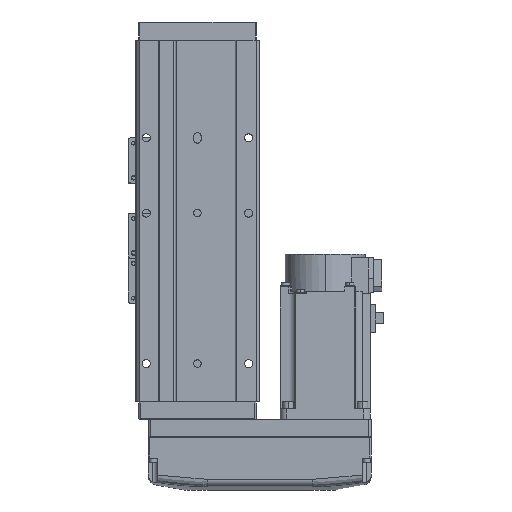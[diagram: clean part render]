
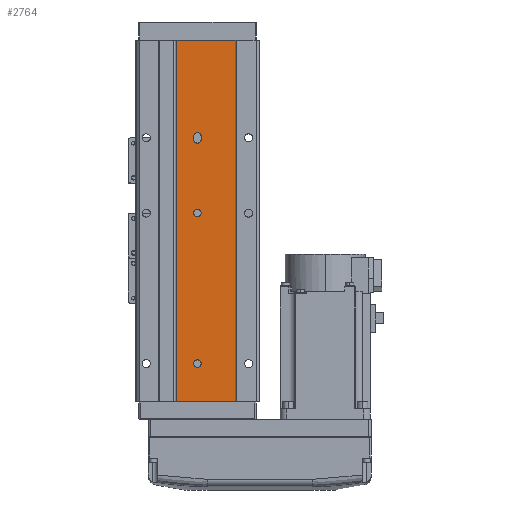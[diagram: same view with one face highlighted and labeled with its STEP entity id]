
A CAD part, front view. The second image highlights one B-rep face of the part: STEP entity #2764.
In plain terms, the highlighted planar face has unit normal (0, -1, 0).
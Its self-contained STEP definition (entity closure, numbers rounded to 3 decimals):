
#387 = DIRECTION ( 'NONE',  ( 0., -1., 0. ) ) ;
#412 = EDGE_CURVE ( 'NONE', #15976, #12250, #13494, .T. ) ;
#675 = VECTOR ( 'NONE', #17467, 1000. ) ;
#1146 = ORIENTED_EDGE ( 'NONE', *, *, #16448, .T. ) ;
#2031 = FACE_BOUND ( 'NONE', #31570, .T. ) ;
#2180 = ORIENTED_EDGE ( 'NONE', *, *, #17216, .T. ) ;
#2196 = DIRECTION ( 'NONE',  ( 0., -1., 0. ) ) ;
#2301 = EDGE_LOOP ( 'NONE', ( #32993, #24653 ) ) ;
#2378 = CARTESIAN_POINT ( 'NONE',  ( 0., 1., -5. ) ) ;
#2559 = CARTESIAN_POINT ( 'NONE',  ( 0., 1., -54. ) ) ;
#2764 = ADVANCED_FACE ( 'NONE', ( #17480, #29915, #2031, #14433 ), #26867, .F. ) ;
#2923 = CARTESIAN_POINT ( 'NONE',  ( -25., 1., -120. ) ) ;
#3445 = CARTESIAN_POINT ( 'NONE',  ( -25., 1., -120. ) ) ;
#4608 = AXIS2_PLACEMENT_3D ( 'NONE', #2378, #14777, #27220 ) ;
#4675 = ORIENTED_EDGE ( 'NONE', *, *, #35624, .F. ) ;
#5047 = CARTESIAN_POINT ( 'NONE',  ( 2.5, 1., -54. ) ) ;
#5048 = CARTESIAN_POINT ( 'NONE',  ( -25., 1., 120. ) ) ;
#6197 = CIRCLE ( 'NONE', #28956, 2.5 ) ;
#6419 = CARTESIAN_POINT ( 'NONE',  ( 0., 1., 95. ) ) ;
#6629 = DIRECTION ( 'NONE',  ( 0., 0., -1. ) ) ;
#6721 = LINE ( 'NONE', #19145, #24054 ) ;
#7111 = VECTOR ( 'NONE', #15316, 1000. ) ;
#7133 = LINE ( 'NONE', #19556, #34468 ) ;
#7353 = ORIENTED_EDGE ( 'NONE', *, *, #40083, .F. ) ;
#7454 = CARTESIAN_POINT ( 'NONE',  ( 14., 1., -120. ) ) ;
#7984 = DIRECTION ( 'NONE',  ( 0., 0., -1. ) ) ;
#9242 = VERTEX_POINT ( 'NONE', #18678 ) ;
#9789 = VERTEX_POINT ( 'NONE', #37780 ) ;
#10251 = EDGE_CURVE ( 'NONE', #32278, #23622, #32951, .T. ) ;
#10399 = AXIS2_PLACEMENT_3D ( 'NONE', #28281, #387, #12791 ) ;
#11344 = VERTEX_POINT ( 'NONE', #19631 ) ;
#11385 = DIRECTION ( 'NONE',  ( 0., 1., 0. ) ) ;
#11861 = ORIENTED_EDGE ( 'NONE', *, *, #30655, .F. ) ;
#12250 = VERTEX_POINT ( 'NONE', #22789 ) ;
#12669 = VECTOR ( 'NONE', #17466, 1000. ) ;
#12791 = DIRECTION ( 'NONE',  ( 0., 0., -1. ) ) ;
#13427 = ORIENTED_EDGE ( 'NONE', *, *, #10251, .F. ) ;
#13494 = CIRCLE ( 'NONE', #36250, 2.5 ) ;
#13918 = CARTESIAN_POINT ( 'NONE',  ( 0., 1., -5. ) ) ;
#14300 = EDGE_CURVE ( 'NONE', #23622, #20865, #6197, .T. ) ;
#14433 = FACE_OUTER_BOUND ( 'NONE', #38828, .T. ) ;
#14597 = DIRECTION ( 'NONE',  ( 0., 0., -1. ) ) ;
#14777 = DIRECTION ( 'NONE',  ( 0., -1., 0. ) ) ;
#14904 = AXIS2_PLACEMENT_3D ( 'NONE', #23464, #35884, #7984 ) ;
#14961 = DIRECTION ( 'NONE',  ( 0., -1., 0. ) ) ;
#15156 = VERTEX_POINT ( 'NONE', #36810 ) ;
#15316 = DIRECTION ( 'NONE',  ( 1., 0., 0. ) ) ;
#15976 = VERTEX_POINT ( 'NONE', #21496 ) ;
#16448 = EDGE_CURVE ( 'NONE', #27321, #37399, #30807, .T. ) ;
#16476 = EDGE_LOOP ( 'NONE', ( #31932, #24463, #13427, #36025, #4675 ) ) ;
#16725 = VERTEX_POINT ( 'NONE', #38917 ) ;
#17028 = EDGE_CURVE ( 'NONE', #20865, #9242, #6721, .T. ) ;
#17216 = EDGE_CURVE ( 'NONE', #26488, #27321, #32952, .T. ) ;
#17466 = DIRECTION ( 'NONE',  ( 0., 0., 1. ) ) ;
#17467 = DIRECTION ( 'NONE',  ( 0., 0., -1. ) ) ;
#17480 = FACE_BOUND ( 'NONE', #16476, .T. ) ;
#18678 = CARTESIAN_POINT ( 'NONE',  ( -2.5, 1., -56. ) ) ;
#18849 = DIRECTION ( 'NONE',  ( 0., -1., 0. ) ) ;
#19145 = CARTESIAN_POINT ( 'NONE',  ( -2.5, 1., -54. ) ) ;
#19556 = CARTESIAN_POINT ( 'NONE',  ( -25., 1., 120. ) ) ;
#19631 = CARTESIAN_POINT ( 'NONE',  ( 14., 1., 120. ) ) ;
#20565 = AXIS2_PLACEMENT_3D ( 'NONE', #30088, #2196, #14597 ) ;
#20739 = AXIS2_PLACEMENT_3D ( 'NONE', #13918, #26349, #38751 ) ;
#20865 = VERTEX_POINT ( 'NONE', #35922 ) ;
#21496 = CARTESIAN_POINT ( 'NONE',  ( 0., 1., 97.5 ) ) ;
#22013 = CARTESIAN_POINT ( 'NONE',  ( 2.5, 1., -56. ) ) ;
#22104 = LINE ( 'NONE', #34522, #33973 ) ;
#22482 = EDGE_CURVE ( 'NONE', #12250, #15976, #32480, .T. ) ;
#22789 = CARTESIAN_POINT ( 'NONE',  ( 0., 1., 92.5 ) ) ;
#22852 = EDGE_CURVE ( 'NONE', #26488, #11344, #7133, .T. ) ;
#23340 = EDGE_CURVE ( 'NONE', #11344, #37399, #22104, .T. ) ;
#23464 = CARTESIAN_POINT ( 'NONE',  ( 0., 1., 95. ) ) ;
#23622 = VERTEX_POINT ( 'NONE', #24448 ) ;
#23801 = DIRECTION ( 'NONE',  ( 0., 0., 1. ) ) ;
#24054 = VECTOR ( 'NONE', #31558, 1000. ) ;
#24448 = CARTESIAN_POINT ( 'NONE',  ( 2.5, 1., -54. ) ) ;
#24463 = ORIENTED_EDGE ( 'NONE', *, *, #14300, .F. ) ;
#24653 = ORIENTED_EDGE ( 'NONE', *, *, #412, .F. ) ;
#25103 = ORIENTED_EDGE ( 'NONE', *, *, #23340, .F. ) ;
#25914 = CARTESIAN_POINT ( 'NONE',  ( -25., 1., 120. ) ) ;
#26349 = DIRECTION ( 'NONE',  ( 0., -1., 0. ) ) ;
#26488 = VERTEX_POINT ( 'NONE', #25914 ) ;
#26867 = PLANE ( 'NONE',  #30599 ) ;
#27220 = DIRECTION ( 'NONE',  ( 0., 0., -1. ) ) ;
#27321 = VERTEX_POINT ( 'NONE', #3445 ) ;
#27399 = DIRECTION ( 'NONE',  ( 0., 0., -1. ) ) ;
#27960 = CIRCLE ( 'NONE', #10399, 2.5 ) ;
#28188 = EDGE_CURVE ( 'NONE', #15156, #32278, #27960, .T. ) ;
#28281 = CARTESIAN_POINT ( 'NONE',  ( 0., 1., -56. ) ) ;
#28956 = AXIS2_PLACEMENT_3D ( 'NONE', #2559, #14961, #27399 ) ;
#29915 = FACE_BOUND ( 'NONE', #2301, .T. ) ;
#30088 = CARTESIAN_POINT ( 'NONE',  ( 0., 1., -56. ) ) ;
#30599 = AXIS2_PLACEMENT_3D ( 'NONE', #39281, #11385, #23801 ) ;
#30655 = EDGE_CURVE ( 'NONE', #9789, #16725, #38309, .T. ) ;
#30807 = LINE ( 'NONE', #2923, #7111 ) ;
#31270 = DIRECTION ( 'NONE',  ( 0., 0., -1. ) ) ;
#31558 = DIRECTION ( 'NONE',  ( 0., 0., -1. ) ) ;
#31570 = EDGE_LOOP ( 'NONE', ( #7353, #11861 ) ) ;
#31932 = ORIENTED_EDGE ( 'NONE', *, *, #17028, .F. ) ;
#31974 = DIRECTION ( 'NONE',  ( 1., 0., 0. ) ) ;
#32278 = VERTEX_POINT ( 'NONE', #22013 ) ;
#32480 = CIRCLE ( 'NONE', #14904, 2.5 ) ;
#32951 = LINE ( 'NONE', #5047, #12669 ) ;
#32952 = LINE ( 'NONE', #5048, #675 ) ;
#32993 = ORIENTED_EDGE ( 'NONE', *, *, #22482, .F. ) ;
#33973 = VECTOR ( 'NONE', #6629, 1000. ) ;
#34468 = VECTOR ( 'NONE', #31974, 1000. ) ;
#34522 = CARTESIAN_POINT ( 'NONE',  ( 14., 1., 120. ) ) ;
#35624 = EDGE_CURVE ( 'NONE', #9242, #15156, #38130, .T. ) ;
#35884 = DIRECTION ( 'NONE',  ( 0., -1., 0. ) ) ;
#35922 = CARTESIAN_POINT ( 'NONE',  ( -2.5, 1., -54. ) ) ;
#36025 = ORIENTED_EDGE ( 'NONE', *, *, #28188, .F. ) ;
#36250 = AXIS2_PLACEMENT_3D ( 'NONE', #6419, #18849, #31270 ) ;
#36810 = CARTESIAN_POINT ( 'NONE',  ( 0., 1., -58.5 ) ) ;
#37399 = VERTEX_POINT ( 'NONE', #7454 ) ;
#37780 = CARTESIAN_POINT ( 'NONE',  ( 0., 1., -2.5 ) ) ;
#38130 = CIRCLE ( 'NONE', #20565, 2.5 ) ;
#38309 = CIRCLE ( 'NONE', #20739, 2.5 ) ;
#38751 = DIRECTION ( 'NONE',  ( 0., 0., -1. ) ) ;
#38828 = EDGE_LOOP ( 'NONE', ( #1146, #25103, #39900, #2180 ) ) ;
#38917 = CARTESIAN_POINT ( 'NONE',  ( 0., 1., -7.5 ) ) ;
#39281 = CARTESIAN_POINT ( 'NONE',  ( -25., 1., 120. ) ) ;
#39716 = CIRCLE ( 'NONE', #4608, 2.5 ) ;
#39900 = ORIENTED_EDGE ( 'NONE', *, *, #22852, .F. ) ;
#40083 = EDGE_CURVE ( 'NONE', #16725, #9789, #39716, .T. ) ;
